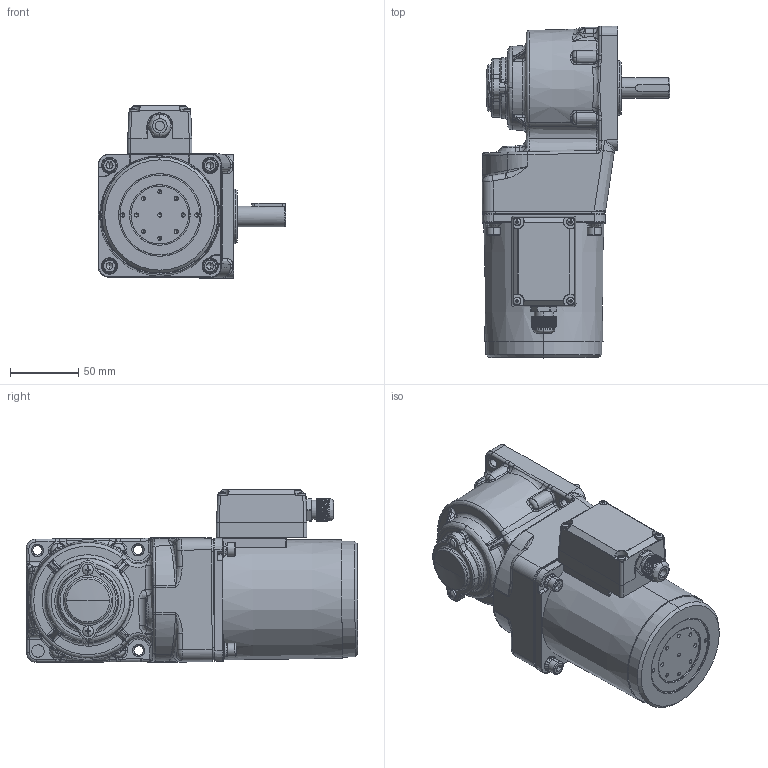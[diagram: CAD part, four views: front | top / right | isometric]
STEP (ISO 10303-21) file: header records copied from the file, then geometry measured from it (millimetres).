
FILE_DESCRIPTION (( 'STEP AP203' ), '1' );
FILE_NAME ('5IK40GU-CT(5GU3RT-180RT)ÐÂ.STEP', '2023-08-17T06:37:03', ( 'Windows User' ), ( 'P R C' ), 'SwSTEP 2.0', 'SolidWorks 2019', '' );
FILE_SCHEMA (( 'CONFIG_CONTROL_DESIGN' ));
Length unit declared in the file: millimetre
Products named in the file (10): 90____^5IK40GU-CT(5GU3RT-180RT)陔(2)_5IK40GU-CT(5GU3RT-180RT)陔; 90__________^5IK40GU-CT(5GU3RT-180RT)陔(2)_5IK40GU-CT(5GU3RT-180RT)陔; zd-5gu-50rc-504-001m#________ 2021-12-07 - ____^5IK40GU-CT(5GU3RT-180RT)陔(2)_5IK40GU-CT(5GU3RT-180RT)陔; hexagon socket head cap screws gb_GB_FASTENER_SCREWS_HSHCS M5X12-N^5IK40GU-CT(5GU3RT-180RT)ÐÂ(2)_5IK40GU-CT(5GU3RT-180RT)ÐÂ; cross recessed pan head screws gb_GB_CROSS_SCREWS_TYPE1 M4X6-6  H type-N^5IK40GU-CT(5GU3RT-180RT)ÐÂ(2)_5IK40GU-CT(5GU3RT-180RT)ÐÂ; 5IK40GU-CT(5GU3RC-180RC)^5IK40GU-CT(5GU3RT-180RT)ÐÂ(2)_5IK40GU-CT(5GU3RT-180RT)ÐÂ; 5IK40GU-CT(5GU3RT-180RT)陔; ZD-5GU50RC-505-003______^5IK40GU-CT(5GU3RT-180RT)陔(2)_5IK40GU-CT(5GU3RT-180RT)陔; 5IK40GU-CT(5GU3RT-180RT)陔(2)^5IK40GU-CT(5GU3RT-180RT)陔; 90RT____________^5IK40GU-CT(5GU3RT-180RT)陔(2)_5IK40GU-CT(5GU3RT-180RT)陔
Assembly tree (13 placements, depth 3):
  5IK40GU-CT(5GU3RT-180RT)陔
    5IK40GU-CT(5GU3RT-180RT)陔(2)^5IK40GU-CT(5GU3RT-180RT)陔
      zd-5gu-50rc-504-001m#________ 2021-12-07 - ____^5IK40GU-CT(5GU3RT-180RT)陔(2)_5IK40GU-CT(5GU3RT-180RT)陔
      90__________^5IK40GU-CT(5GU3RT-180RT)陔(2)_5IK40GU-CT(5GU3RT-180RT)陔
      90____^5IK40GU-CT(5GU3RT-180RT)陔(2)_5IK40GU-CT(5GU3RT-180RT)陔
      ZD-5GU50RC-505-003______^5IK40GU-CT(5GU3RT-180RT)陔(2)_5IK40GU-CT(5GU3RT-180RT)陔
      90RT____________^5IK40GU-CT(5GU3RT-180RT)陔(2)_5IK40GU-CT(5GU3RT-180RT)陔
      hexagon socket head cap screws gb_GB_FASTENER_SCREWS_HSHCS M5X12-N^5IK40GU-CT(5GU3RT-180RT)ÐÂ(2)_5IK40GU-CT(5GU3RT-180RT)ÐÂ  x4
      cross recessed pan head screws gb_GB_CROSS_SCREWS_TYPE1 M4X6-6  H type-N^5IK40GU-CT(5GU3RT-180RT)ÐÂ(2)_5IK40GU-CT(5GU3RT-180RT)ÐÂ  x2
      5IK40GU-CT(5GU3RC-180RC)^5IK40GU-CT(5GU3RT-180RT)ÐÂ(2)_5IK40GU-CT(5GU3RT-180RT)ÐÂ
Bounding box: 137 x 242.47 x 126.22 mm (x, y, z)
Volume: 893519.7 mm3; surface area: 190195 mm2
Topology: 26 solids, 38 shells, 2636 faces, 6584 edges, 3952 vertices
Faces by surface type: cone 718, plane 662, cylinder 627, bspline 528, torus 91, sphere 10
Entity records: 111426 total; most frequent: CARTESIAN_POINT 56902, ORIENTED_EDGE 12418, DIRECTION 9474, EDGE_CURVE 6211, AXIS2_PLACEMENT_3D 3857, VERTEX_POINT 3810, EDGE_LOOP 2645, FACE_OUTER_BOUND 2536
